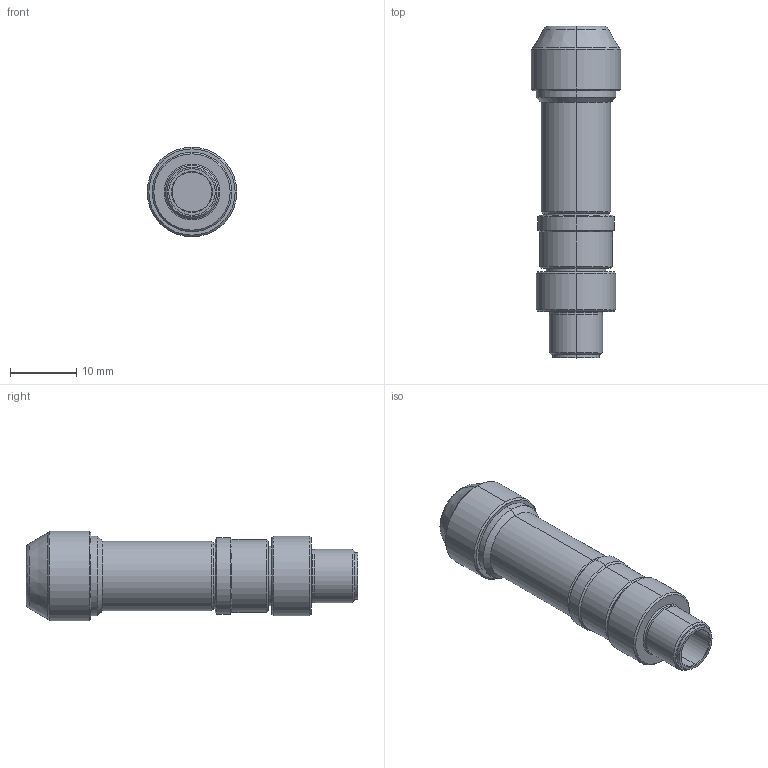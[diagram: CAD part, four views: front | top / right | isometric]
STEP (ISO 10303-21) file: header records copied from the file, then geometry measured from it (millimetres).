
FILE_DESCRIPTION (( 'STEP AP203' ), '1' );
FILE_NAME ('CMS-51.step', '2017-06-23T13:01:34', ( '' ), ( '' ), 'SwSTEP 2.0', 'SolidWorks 2015', '' );
FILE_SCHEMA (( 'CONFIG_CONTROL_DESIGN' ));
Length unit declared in the file: millimetre
Products named in the file (2): CMS-51
Bounding box: 13.5 x 50 x 13.5 mm (x, y, z)
Volume: 4175.5 mm3; surface area: 2445.9 mm2
Topology: 1 solids, 1 shells, 67 faces, 136 edges, 80 vertices
Faces by surface type: cylinder 26, cone 26, plane 11, bspline 2, torus 2
Entity records: 1933 total; most frequent: DIRECTION 350, CARTESIAN_POINT 321, ORIENTED_EDGE 272, AXIS2_PLACEMENT_3D 149, EDGE_CURVE 136, CIRCLE 82, VERTEX_POINT 80, EDGE_LOOP 76
